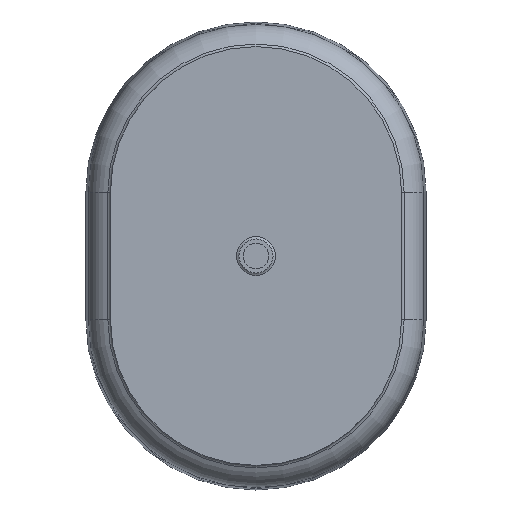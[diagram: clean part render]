
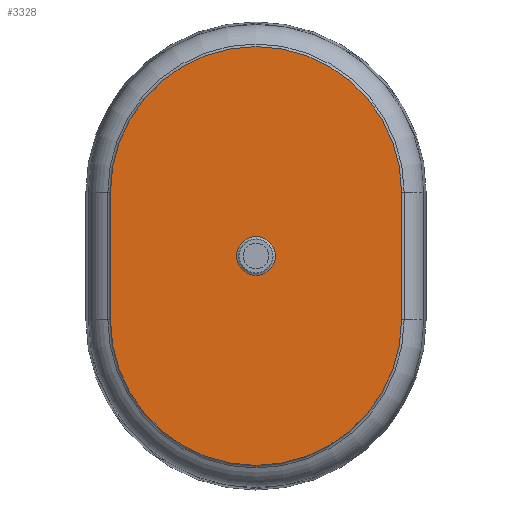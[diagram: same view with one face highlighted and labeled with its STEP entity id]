
A CAD part, front view. The second image highlights one B-rep face of the part: STEP entity #3328.
In plain terms, the highlighted planar face has unit normal (0, -1, 0).
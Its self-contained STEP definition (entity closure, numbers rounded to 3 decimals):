
#89 = EDGE_LOOP ( 'NONE', ( #646 ) ) ;
#164 = CIRCLE ( 'NONE', #3538, 23. ) ;
#185 = DIRECTION ( 'NONE',  ( 0., 0., -1. ) ) ;
#199 = DIRECTION ( 'NONE',  ( 0., 0., -1. ) ) ;
#355 = CARTESIAN_POINT ( 'NONE',  ( 0., -3., -150. ) ) ;
#377 = CARTESIAN_POINT ( 'NONE',  ( 0., -3., -98. ) ) ;
#407 = EDGE_CURVE ( 'NONE', #727, #826, #1665, .T. ) ;
#425 = EDGE_CURVE ( 'NONE', #2981, #1538, #3094, .T. ) ;
#607 = CARTESIAN_POINT ( 'NONE',  ( -171., -3., 0. ) ) ;
#646 = ORIENTED_EDGE ( 'NONE', *, *, #1953, .F. ) ;
#727 = VERTEX_POINT ( 'NONE', #607 ) ;
#826 = VERTEX_POINT ( 'NONE', #1776 ) ;
#1027 = PLANE ( 'NONE',  #2406 ) ;
#1041 = ORIENTED_EDGE ( 'NONE', *, *, #3167, .T. ) ;
#1043 = AXIS2_PLACEMENT_3D ( 'NONE', #355, #2911, #3471 ) ;
#1341 = CARTESIAN_POINT ( 'NONE',  ( 171., -3., -75. ) ) ;
#1461 = VECTOR ( 'NONE', #3647, 1000. ) ;
#1495 = EDGE_CURVE ( 'NONE', #2981, #826, #3181, .T. ) ;
#1538 = VERTEX_POINT ( 'NONE', #2339 ) ;
#1551 = DIRECTION ( 'NONE',  ( 0., 0., -1. ) ) ;
#1628 = DIRECTION ( 'NONE',  ( 0., 0., 1. ) ) ;
#1665 = LINE ( 'NONE', #3056, #1461 ) ;
#1669 = CARTESIAN_POINT ( 'NONE',  ( 0., -3., 0. ) ) ;
#1776 = CARTESIAN_POINT ( 'NONE',  ( -171., -3., -150. ) ) ;
#1822 = EDGE_LOOP ( 'NONE', ( #2360, #2332, #2790, #1041 ) ) ;
#1896 = DIRECTION ( 'NONE',  ( 0., -1., 0. ) ) ;
#1953 = EDGE_CURVE ( 'NONE', #2677, #2677, #164, .T. ) ;
#2102 = CARTESIAN_POINT ( 'NONE',  ( 0., -3., -75. ) ) ;
#2169 = CARTESIAN_POINT ( 'NONE',  ( 171., -3., -150. ) ) ;
#2225 = FACE_BOUND ( 'NONE', #89, .T. ) ;
#2332 = ORIENTED_EDGE ( 'NONE', *, *, #1495, .F. ) ;
#2339 = CARTESIAN_POINT ( 'NONE',  ( 171., -3., 0. ) ) ;
#2360 = ORIENTED_EDGE ( 'NONE', *, *, #407, .T. ) ;
#2399 = DIRECTION ( 'NONE',  ( 0., -1., 0. ) ) ;
#2406 = AXIS2_PLACEMENT_3D ( 'NONE', #3097, #2722, #185 ) ;
#2677 = VERTEX_POINT ( 'NONE', #377 ) ;
#2722 = DIRECTION ( 'NONE',  ( 0., -1., 0. ) ) ;
#2790 = ORIENTED_EDGE ( 'NONE', *, *, #425, .T. ) ;
#2911 = DIRECTION ( 'NONE',  ( 0., 1., 0. ) ) ;
#2981 = VERTEX_POINT ( 'NONE', #2169 ) ;
#3056 = CARTESIAN_POINT ( 'NONE',  ( -171., -3., 0. ) ) ;
#3094 = LINE ( 'NONE', #1341, #3244 ) ;
#3097 = CARTESIAN_POINT ( 'NONE',  ( 0., -3., 0. ) ) ;
#3167 = EDGE_CURVE ( 'NONE', #1538, #727, #3583, .T. ) ;
#3181 = CIRCLE ( 'NONE', #1043, 171. ) ;
#3244 = VECTOR ( 'NONE', #1628, 1000. ) ;
#3328 = ADVANCED_FACE ( 'NONE', ( #2225, #3575 ), #1027, .T. ) ;
#3417 = AXIS2_PLACEMENT_3D ( 'NONE', #1669, #1896, #199 ) ;
#3471 = DIRECTION ( 'NONE',  ( 0., 0., 1. ) ) ;
#3538 = AXIS2_PLACEMENT_3D ( 'NONE', #2102, #2399, #1551 ) ;
#3575 = FACE_OUTER_BOUND ( 'NONE', #1822, .T. ) ;
#3583 = CIRCLE ( 'NONE', #3417, 171. ) ;
#3647 = DIRECTION ( 'NONE',  ( 0., 0., -1. ) ) ;
